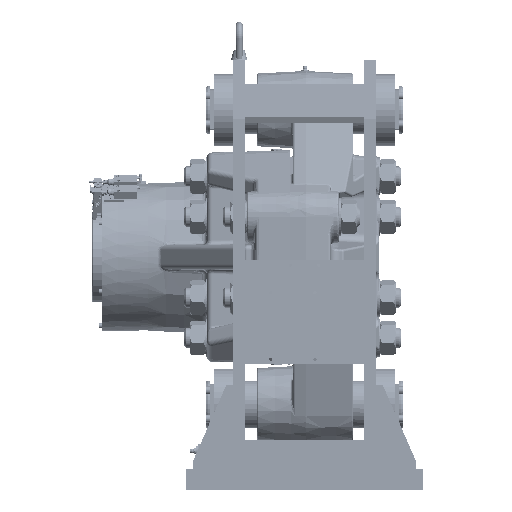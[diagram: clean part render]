
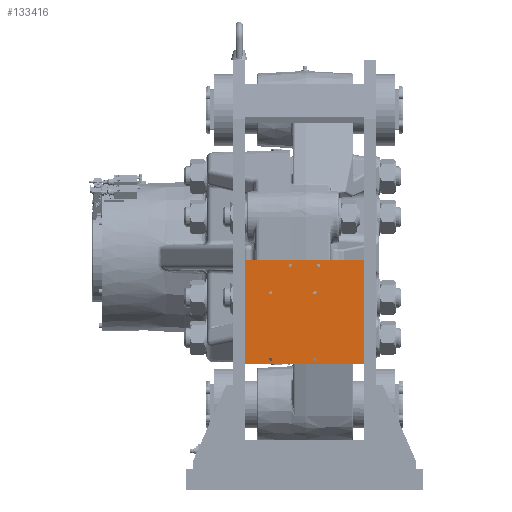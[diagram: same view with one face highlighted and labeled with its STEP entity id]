
A CAD part, front view. The second image highlights one B-rep face of the part: STEP entity #133416.
In plain terms, the highlighted planar face has unit normal (0, -1, 0).
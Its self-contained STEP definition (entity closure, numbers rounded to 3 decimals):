
#55180=DIRECTION('',(0.,0.,-1.));
#55181=VECTOR('',#55180,220.);
#55182=CARTESIAN_POINT('',(-125.,-570.,440.));
#55183=LINE('',#55182,#55181);
#57501=DIRECTION('',(1.,0.,0.));
#57502=VECTOR('',#57501,250.);
#57503=CARTESIAN_POINT('',(-375.,-570.,440.));
#57504=LINE('',#57503,#57502);
#57515=DIRECTION('',(1.,0.,0.));
#57516=VECTOR('',#57515,250.);
#57517=CARTESIAN_POINT('',(-375.,-570.,220.));
#57518=LINE('',#57517,#57516);
#57522=DIRECTION('',(0.,0.,-1.));
#57523=VECTOR('',#57522,220.);
#57524=CARTESIAN_POINT('',(-375.,-570.,440.));
#57525=LINE('',#57524,#57523);
#57529=CARTESIAN_POINT('',(-280.,-570.,428.));
#57530=DIRECTION('',(0.,1.,0.));
#57531=DIRECTION('',(0.,0.,-1.));
#57532=AXIS2_PLACEMENT_3D('',#57529,#57530,#57531);
#57537=CARTESIAN_POINT('',(-280.,-570.,428.));
#57538=DIRECTION('',(0.,1.,0.));
#57539=DIRECTION('',(0.,0.,1.));
#57540=AXIS2_PLACEMENT_3D('',#57537,#57538,#57539);
#57545=CARTESIAN_POINT('',(-220.,-570.,428.));
#57546=DIRECTION('',(0.,1.,0.));
#57547=DIRECTION('',(0.,0.,-1.));
#57548=AXIS2_PLACEMENT_3D('',#57545,#57546,#57547);
#57553=CARTESIAN_POINT('',(-220.,-570.,428.));
#57554=DIRECTION('',(0.,1.,0.));
#57555=DIRECTION('',(0.,0.,1.));
#57556=AXIS2_PLACEMENT_3D('',#57553,#57554,#57555);
#57561=CARTESIAN_POINT('',(-321.,-570.,230.));
#57562=DIRECTION('',(0.,1.,0.));
#57563=DIRECTION('',(0.,0.,-1.));
#57564=AXIS2_PLACEMENT_3D('',#57561,#57562,#57563);
#57569=CARTESIAN_POINT('',(-321.,-570.,230.));
#57570=DIRECTION('',(0.,1.,0.));
#57571=DIRECTION('',(0.,0.,1.));
#57572=AXIS2_PLACEMENT_3D('',#57569,#57570,#57571);
#57577=CARTESIAN_POINT('',(-321.,-570.,370.));
#57578=DIRECTION('',(0.,1.,0.));
#57579=DIRECTION('',(0.,0.,-1.));
#57580=AXIS2_PLACEMENT_3D('',#57577,#57578,#57579);
#57585=CARTESIAN_POINT('',(-321.,-570.,370.));
#57586=DIRECTION('',(0.,1.,0.));
#57587=DIRECTION('',(0.,0.,1.));
#57588=AXIS2_PLACEMENT_3D('',#57585,#57586,#57587);
#57593=CARTESIAN_POINT('',(-228.,-570.,370.));
#57594=DIRECTION('',(0.,1.,0.));
#57595=DIRECTION('',(0.,0.,-1.));
#57596=AXIS2_PLACEMENT_3D('',#57593,#57594,#57595);
#57601=CARTESIAN_POINT('',(-228.,-570.,370.));
#57602=DIRECTION('',(0.,1.,0.));
#57603=DIRECTION('',(0.,0.,1.));
#57604=AXIS2_PLACEMENT_3D('',#57601,#57602,#57603);
#57609=CARTESIAN_POINT('',(-228.,-570.,230.));
#57610=DIRECTION('',(0.,1.,0.));
#57611=DIRECTION('',(0.,0.,-1.));
#57612=AXIS2_PLACEMENT_3D('',#57609,#57610,#57611);
#57617=CARTESIAN_POINT('',(-228.,-570.,230.));
#57618=DIRECTION('',(0.,1.,0.));
#57619=DIRECTION('',(0.,0.,1.));
#57620=AXIS2_PLACEMENT_3D('',#57617,#57618,#57619);
#91109=CARTESIAN_POINT('',(-280.,-570.,424.6));
#91111=VERTEX_POINT('',#91109);
#91133=CARTESIAN_POINT('',(-321.,-570.,366.6));
#91135=VERTEX_POINT('',#91133);
#91141=CARTESIAN_POINT('',(-321.,-570.,233.4));
#91143=VERTEX_POINT('',#91141);
#91177=CARTESIAN_POINT('',(-375.,-570.,220.));
#91179=VERTEX_POINT('',#91177);
#91237=CARTESIAN_POINT('',(-228.,-570.,373.4));
#91239=VERTEX_POINT('',#91237);
#91285=CARTESIAN_POINT('',(-375.,-570.,440.));
#91286=VERTEX_POINT('',#91285);
#91353=CARTESIAN_POINT('',(-321.,-570.,226.6));
#91354=VERTEX_POINT('',#91353);
#91359=CARTESIAN_POINT('',(-280.,-570.,431.4));
#91360=VERTEX_POINT('',#91359);
#91387=CARTESIAN_POINT('',(-228.,-570.,233.4));
#91388=CARTESIAN_POINT('',(-228.,-570.,226.6));
#91389=VERTEX_POINT('',#91387);
#91390=VERTEX_POINT('',#91388);
#91407=CARTESIAN_POINT('',(-228.,-570.,366.6));
#91408=VERTEX_POINT('',#91407);
#91419=CARTESIAN_POINT('',(-125.,-570.,220.));
#91420=VERTEX_POINT('',#91419);
#91439=CARTESIAN_POINT('',(-220.,-570.,424.6));
#91440=CARTESIAN_POINT('',(-220.,-570.,431.4));
#91441=VERTEX_POINT('',#91439);
#91442=VERTEX_POINT('',#91440);
#91485=CARTESIAN_POINT('',(-321.,-570.,373.4));
#91486=VERTEX_POINT('',#91485);
#91501=CARTESIAN_POINT('',(-125.,-570.,440.));
#91502=VERTEX_POINT('',#91501);
#133368=CARTESIAN_POINT('',(499750.,-570.,440.));
#133369=DIRECTION('',(0.,-1.,0.));
#133370=DIRECTION('',(0.,0.,1.));
#133371=AXIS2_PLACEMENT_3D('',#133368,#133369,#133370);
#133372=PLANE('',#133371);
#133374=ORIENTED_EDGE('',*,*,#133373,.F.);
#133375=ORIENTED_EDGE('',*,*,#128655,.F.);
#133376=ORIENTED_EDGE('',*,*,#133359,.T.);
#133377=ORIENTED_EDGE('',*,*,#131517,.T.);
#133378=EDGE_LOOP('',(#133374,#133375,#133376,#133377));
#133379=FACE_OUTER_BOUND('',#133378,.F.);
#133381=ORIENTED_EDGE('',*,*,#133380,.F.);
#133383=ORIENTED_EDGE('',*,*,#133382,.F.);
#133384=EDGE_LOOP('',(#133381,#133383));
#133385=FACE_BOUND('',#133384,.F.);
#133387=ORIENTED_EDGE('',*,*,#133386,.F.);
#133389=ORIENTED_EDGE('',*,*,#133388,.F.);
#133390=EDGE_LOOP('',(#133387,#133389));
#133391=FACE_BOUND('',#133390,.F.);
#133393=ORIENTED_EDGE('',*,*,#133392,.F.);
#133395=ORIENTED_EDGE('',*,*,#133394,.F.);
#133396=EDGE_LOOP('',(#133393,#133395));
#133397=FACE_BOUND('',#133396,.F.);
#133399=ORIENTED_EDGE('',*,*,#133398,.F.);
#133401=ORIENTED_EDGE('',*,*,#133400,.F.);
#133402=EDGE_LOOP('',(#133399,#133401));
#133403=FACE_BOUND('',#133402,.F.);
#133405=ORIENTED_EDGE('',*,*,#133404,.F.);
#133407=ORIENTED_EDGE('',*,*,#133406,.F.);
#133408=EDGE_LOOP('',(#133405,#133407));
#133409=FACE_BOUND('',#133408,.F.);
#133411=ORIENTED_EDGE('',*,*,#133410,.F.);
#133413=ORIENTED_EDGE('',*,*,#133412,.F.);
#133414=EDGE_LOOP('',(#133411,#133413));
#133415=FACE_BOUND('',#133414,.F.);
#133416=ADVANCED_FACE('',(#133379,#133385,#133391,#133397,#133403,#133409,
#133415),#133372,.T.);
#57533=CIRCLE('',#57532,3.4);
#57541=CIRCLE('',#57540,3.4);
#57549=CIRCLE('',#57548,3.4);
#57557=CIRCLE('',#57556,3.4);
#57565=CIRCLE('',#57564,3.4);
#57573=CIRCLE('',#57572,3.4);
#57581=CIRCLE('',#57580,3.4);
#57589=CIRCLE('',#57588,3.4);
#57597=CIRCLE('',#57596,3.4);
#57605=CIRCLE('',#57604,3.4);
#57613=CIRCLE('',#57612,3.4);
#57621=CIRCLE('',#57620,3.4);
#128655=EDGE_CURVE('',#91286,#91179,#57525,.T.);
#131517=EDGE_CURVE('',#91502,#91420,#55183,.T.);
#133359=EDGE_CURVE('',#91286,#91502,#57504,.T.);
#133373=EDGE_CURVE('',#91179,#91420,#57518,.T.);
#133380=EDGE_CURVE('',#91111,#91360,#57533,.T.);
#133382=EDGE_CURVE('',#91360,#91111,#57541,.T.);
#133386=EDGE_CURVE('',#91441,#91442,#57549,.T.);
#133388=EDGE_CURVE('',#91442,#91441,#57557,.T.);
#133392=EDGE_CURVE('',#91354,#91143,#57565,.T.);
#133394=EDGE_CURVE('',#91143,#91354,#57573,.T.);
#133398=EDGE_CURVE('',#91135,#91486,#57581,.T.);
#133400=EDGE_CURVE('',#91486,#91135,#57589,.T.);
#133404=EDGE_CURVE('',#91408,#91239,#57597,.T.);
#133406=EDGE_CURVE('',#91239,#91408,#57605,.T.);
#133410=EDGE_CURVE('',#91390,#91389,#57613,.T.);
#133412=EDGE_CURVE('',#91389,#91390,#57621,.T.);
